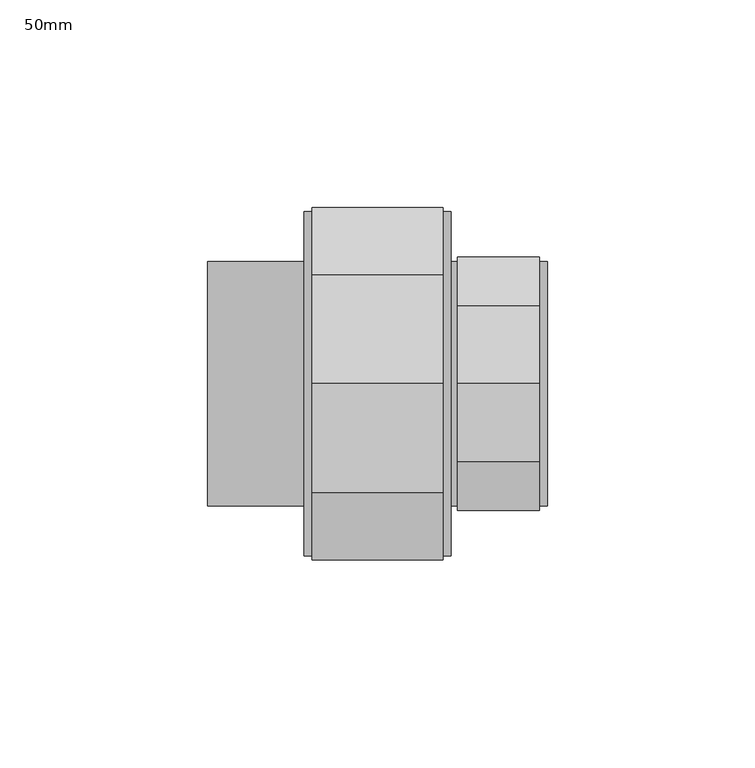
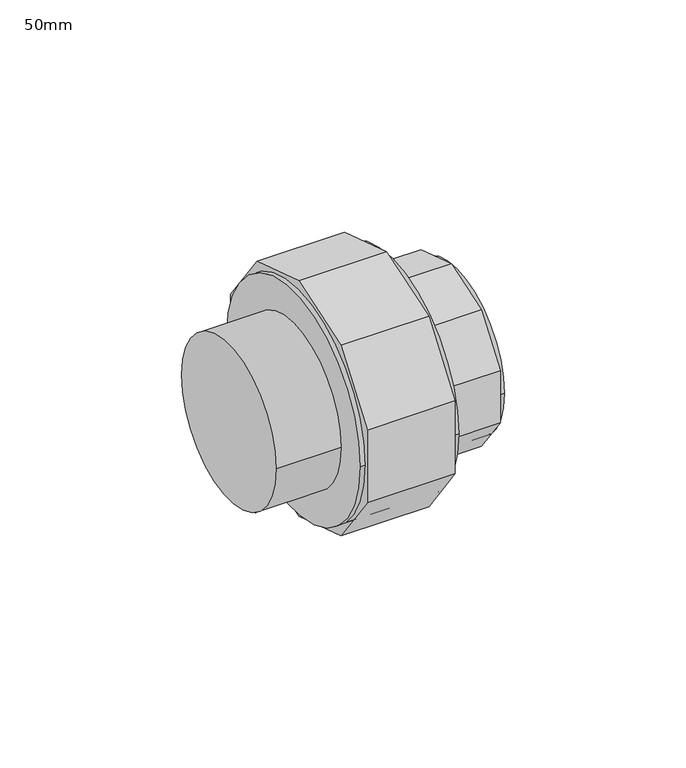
"""IFC4 building model written with IfcOpenShell, lengths in millimetres: pipe fitting geometry, PipeFitting_HTA_CPVC_3PieceUnions_CPVC : 50mm."""

from ifc_helpers import new_model, si_unit, point, frame, origin, origin_2d, place, context, project, spatial, polyline, circle_curve, trimmed, segment, composite_curve, outline, extrude, source, transform, mapped, element, save


def pipe_fitting_50mm_1a663d99(model_context):
    return source(origin(), model_context, "Body", "SweptSolid", [
        extrude(outline(polyline([(18.8500367, 25.9448497), (30.5, 9.9100507), (30.5, -9.9100507), (18.8500367, -25.9448497), (0.0, -32.0695978), (-18.8500367, -25.9448497), (-30.5, -9.9100507), (-30.5, 9.9100507), (-18.8500367, 25.9448497), (0.0, 32.0695978), (18.8500367, 25.9448497)])), frame((19.25, 0.0, 0.0), z_axis=(1.0, 0.0, 0.0), x_axis=(0.0, 1.0, 0.0)), (0.0, 0.0, 1.0), 19.75),
        extrude(outline(composite_curve([segment(trimmed(circle_curve(origin_2d(), 29.5), [point((-29.5, 0.0))], [point((29.5, 0.0))], False, "CARTESIAN"), True, "CONTINUOUS"), segment(trimmed(circle_curve(origin_2d(), 29.5), [point((29.5, 0.0))], [point((-29.5, 0.0))], False, "CARTESIAN"), True, "CONTINUOUS")], self_intersect=False)), frame((9.5, 0.0, 0.0), z_axis=(1.0, 0.0, 0.0), x_axis=(0.0, 1.0, 0.0)), (0.0, 0.0, 1.0), 31.5),
        extrude(outline(composite_curve([segment(trimmed(circle_curve(origin_2d(), 29.5), [point((-29.5, 0.0))], [point((29.5, 0.0))], False, "CARTESIAN"), True, "CONTINUOUS"), segment(trimmed(circle_curve(origin_2d(), 29.5), [point((29.5, 0.0))], [point((-29.5, 0.0))], False, "CARTESIAN"), True, "CONTINUOUS")], self_intersect=False)), frame((-41.0, 0.0, 0.0), z_axis=(1.0, 0.0, 0.0), x_axis=(0.0, 1.0, 0.0)), (0.0, 0.0, 1.0), 23.25),
        extrude(outline(polyline([(26.2664445, 36.1526594), (42.5, 13.8090871), (42.5, -13.8090871), (26.2664445, -36.1526594), (0.0, -44.6871445), (-26.2664445, -36.1526594), (-42.5, -13.8090871), (-42.5, 13.8090871), (-26.2664445, 36.1526594), (0.0, 44.6871445), (26.2664445, 36.1526594)])), frame((-15.75, 0.0, 0.0), z_axis=(1.0, 0.0, 0.0), x_axis=(0.0, 1.0, 0.0)), (0.0, 0.0, 1.0), 31.5),
        extrude(outline(composite_curve([segment(trimmed(circle_curve(origin_2d(), 41.5), [point((-41.5, 0.0))], [point((41.5, 0.0))], False, "CARTESIAN"), True, "CONTINUOUS"), segment(trimmed(circle_curve(origin_2d(), 41.5), [point((41.5, 0.0))], [point((-41.5, 0.0))], False, "CARTESIAN"), True, "CONTINUOUS")], self_intersect=False)), frame((-17.75, 0.0, 0.0), z_axis=(1.0, 0.0, 0.0), x_axis=(0.0, 1.0, 0.0)), (0.0, 0.0, 1.0), 35.5),
    ])


if __name__ == "__main__":
    model = new_model("IFC4")
    model_context = context("Model", 3, world=origin())
    ifc_project = project(units=[si_unit("LENGTHUNIT", "METRE", prefix="MILLI")], contexts=[model_context])
    site = spatial("IfcSite", under=ifc_project)
    building = spatial("IfcBuilding", under=site)
    placement = place(None, origin())
    pipe_fitting_50mm_shape = pipe_fitting_50mm_1a663d99(model_context)
    element("IfcPipeFitting", 1, ObjectType="PipeFitting_HTA_CPVC_3PieceUnions_CPVC : 50mm", at=placement, inside=building, context=model_context, shape_type="MappedRepresentation", body=[
        mapped(pipe_fitting_50mm_shape, transform((0.0, 0.0, 0.0), x_axis=(1.0, 0.0, 0.0), y_axis=(0.0, 1.0, 0.0), z_axis=(0.0, 0.0, 1.0))),
    ])
    save(model, "model.ifc")
